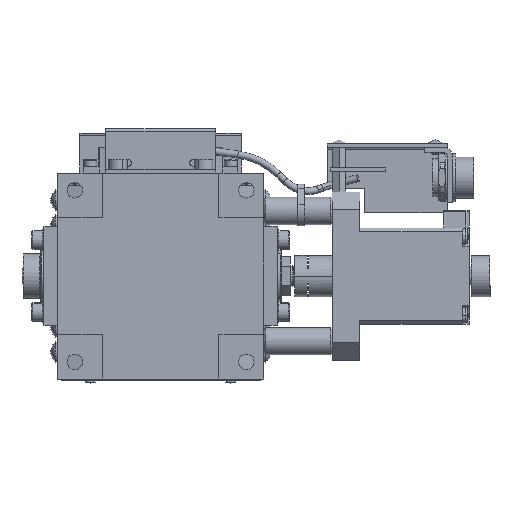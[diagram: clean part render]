
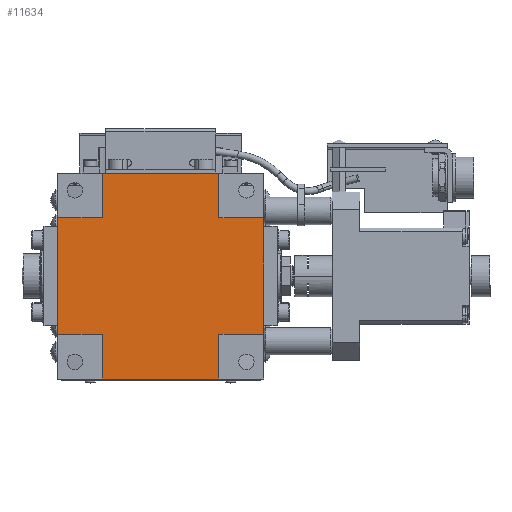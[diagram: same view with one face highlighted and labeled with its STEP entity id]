
A CAD part, front view. The second image highlights one B-rep face of the part: STEP entity #11634.
In plain terms, the highlighted planar face has unit normal (0, -1, 0).
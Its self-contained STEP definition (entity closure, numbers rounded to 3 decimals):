
#91 = LINE ( 'NONE', #7882, #10605 ) ;
#1808 = VECTOR ( 'NONE', #1938, 1000. ) ;
#1938 = DIRECTION ( 'NONE',  ( 1., 0., 0. ) ) ;
#1969 = CARTESIAN_POINT ( 'NONE',  ( 17., 0.3, 30. ) ) ;
#2058 = CARTESIAN_POINT ( 'NONE',  ( 17., 0.3, 17. ) ) ;
#2082 = LINE ( 'NONE', #4412, #8845 ) ;
#2327 = CARTESIAN_POINT ( 'NONE',  ( 30., 0.3, -17. ) ) ;
#2350 = VECTOR ( 'NONE', #5385, 1000. ) ;
#2556 = CARTESIAN_POINT ( 'NONE',  ( 17., 0.3, -17. ) ) ;
#2920 = LINE ( 'NONE', #18964, #19076 ) ;
#3034 = CARTESIAN_POINT ( 'NONE',  ( -17., 0.3, 17. ) ) ;
#3077 = EDGE_CURVE ( 'NONE', #8339, #6684, #24595, .T. ) ;
#3362 = LINE ( 'NONE', #3034, #30868 ) ;
#3479 = VECTOR ( 'NONE', #28386, 1000. ) ;
#3641 = ORIENTED_EDGE ( 'NONE', *, *, #24440, .T. ) ;
#3992 = ORIENTED_EDGE ( 'NONE', *, *, #30521, .T. ) ;
#4169 = VERTEX_POINT ( 'NONE', #1969 ) ;
#4269 = CARTESIAN_POINT ( 'NONE',  ( -30., 0.3, -17. ) ) ;
#4412 = CARTESIAN_POINT ( 'NONE',  ( 17., 0.3, 17. ) ) ;
#4752 = CARTESIAN_POINT ( 'NONE',  ( 17., 0.3, 17. ) ) ;
#5385 = DIRECTION ( 'NONE',  ( 0., 0., -1. ) ) ;
#5442 = DIRECTION ( 'NONE',  ( 0., 0., 1. ) ) ;
#5548 = CARTESIAN_POINT ( 'NONE',  ( 30., 0.3, 17. ) ) ;
#5582 = DIRECTION ( 'NONE',  ( -1., 0., 0. ) ) ;
#6112 = CARTESIAN_POINT ( 'NONE',  ( 17., 0.3, -17. ) ) ;
#6147 = CARTESIAN_POINT ( 'NONE',  ( -17., 0.3, -30. ) ) ;
#6200 = DIRECTION ( 'NONE',  ( -1., 0., 0. ) ) ;
#6670 = DIRECTION ( 'NONE',  ( 0., 0., -1. ) ) ;
#6684 = VERTEX_POINT ( 'NONE', #2327 ) ;
#6839 = DIRECTION ( 'NONE',  ( 0., 0., 1. ) ) ;
#7783 = LINE ( 'NONE', #24690, #31181 ) ;
#7882 = CARTESIAN_POINT ( 'NONE',  ( -17., 0.3, 30. ) ) ;
#8055 = PLANE ( 'NONE',  #24713 ) ;
#8143 = ORIENTED_EDGE ( 'NONE', *, *, #3077, .T. ) ;
#8308 = CARTESIAN_POINT ( 'NONE',  ( -30., 0.3, 17. ) ) ;
#8339 = VERTEX_POINT ( 'NONE', #2556 ) ;
#8845 = VECTOR ( 'NONE', #28548, 1000. ) ;
#9851 = DIRECTION ( 'NONE',  ( 0., 0., -1. ) ) ;
#10605 = VECTOR ( 'NONE', #5582, 1000. ) ;
#10623 = VERTEX_POINT ( 'NONE', #30302 ) ;
#11315 = VECTOR ( 'NONE', #29334, 1000. ) ;
#11634 = ADVANCED_FACE ( 'NONE', ( #13214 ), #8055, .F. ) ;
#11713 = LINE ( 'NONE', #4269, #24883 ) ;
#11773 = CARTESIAN_POINT ( 'NONE',  ( -30., 0.3, -17. ) ) ;
#12630 = CARTESIAN_POINT ( 'NONE',  ( 0., 0.3, 0. ) ) ;
#13214 = FACE_OUTER_BOUND ( 'NONE', #17959, .T. ) ;
#13284 = LINE ( 'NONE', #2058, #3479 ) ;
#13318 = EDGE_CURVE ( 'NONE', #13570, #4169, #13284, .T. ) ;
#13334 = VERTEX_POINT ( 'NONE', #6147 ) ;
#13570 = VERTEX_POINT ( 'NONE', #4752 ) ;
#13736 = DIRECTION ( 'NONE',  ( 1., 0., 0. ) ) ;
#14474 = VERTEX_POINT ( 'NONE', #11773 ) ;
#14782 = LINE ( 'NONE', #19794, #2350 ) ;
#16099 = ORIENTED_EDGE ( 'NONE', *, *, #23788, .T. ) ;
#16255 = EDGE_CURVE ( 'NONE', #13334, #20289, #29283, .T. ) ;
#16399 = ORIENTED_EDGE ( 'NONE', *, *, #20407, .T. ) ;
#17340 = CARTESIAN_POINT ( 'NONE',  ( -17., 0.3, 17. ) ) ;
#17466 = EDGE_CURVE ( 'NONE', #28802, #13570, #2082, .T. ) ;
#17687 = LINE ( 'NONE', #24787, #11315 ) ;
#17959 = EDGE_LOOP ( 'NONE', ( #8143, #29801, #19907, #29427, #3992, #27073, #3641, #16399, #16099, #22503, #29161, #30916 ) ) ;
#18007 = DIRECTION ( 'NONE',  ( 1., 0., 0. ) ) ;
#18135 = CARTESIAN_POINT ( 'NONE',  ( 17., 0.3, -30. ) ) ;
#18563 = VERTEX_POINT ( 'NONE', #17340 ) ;
#18964 = CARTESIAN_POINT ( 'NONE',  ( -30., 0.3, 17. ) ) ;
#19051 = CARTESIAN_POINT ( 'NONE',  ( -17., 0.3, -30. ) ) ;
#19076 = VECTOR ( 'NONE', #6670, 1000. ) ;
#19317 = VECTOR ( 'NONE', #6839, 1000. ) ;
#19794 = CARTESIAN_POINT ( 'NONE',  ( -17., 0.3, -30. ) ) ;
#19907 = ORIENTED_EDGE ( 'NONE', *, *, #17466, .T. ) ;
#20289 = VERTEX_POINT ( 'NONE', #18135 ) ;
#20407 = EDGE_CURVE ( 'NONE', #23266, #14474, #2920, .T. ) ;
#20582 = DIRECTION ( 'NONE',  ( 0., 1., 0. ) ) ;
#21236 = CARTESIAN_POINT ( 'NONE',  ( 30., 0.3, 17. ) ) ;
#22405 = EDGE_CURVE ( 'NONE', #6684, #28802, #29141, .T. ) ;
#22503 = ORIENTED_EDGE ( 'NONE', *, *, #23149, .T. ) ;
#23031 = CARTESIAN_POINT ( 'NONE',  ( -17., 0.3, -17. ) ) ;
#23149 = EDGE_CURVE ( 'NONE', #28225, #13334, #14782, .T. ) ;
#23266 = VERTEX_POINT ( 'NONE', #8308 ) ;
#23788 = EDGE_CURVE ( 'NONE', #14474, #28225, #11713, .T. ) ;
#24440 = EDGE_CURVE ( 'NONE', #18563, #23266, #17687, .T. ) ;
#24595 = LINE ( 'NONE', #6112, #26903 ) ;
#24690 = CARTESIAN_POINT ( 'NONE',  ( 17., 0.3, -30. ) ) ;
#24713 = AXIS2_PLACEMENT_3D ( 'NONE', #12630, #20582, #6200 ) ;
#24787 = CARTESIAN_POINT ( 'NONE',  ( -30., 0.3, 17. ) ) ;
#24883 = VECTOR ( 'NONE', #13736, 1000. ) ;
#25910 = EDGE_CURVE ( 'NONE', #10623, #18563, #3362, .T. ) ;
#26903 = VECTOR ( 'NONE', #18007, 1000. ) ;
#27073 = ORIENTED_EDGE ( 'NONE', *, *, #25910, .T. ) ;
#27720 = EDGE_CURVE ( 'NONE', #20289, #8339, #7783, .T. ) ;
#28225 = VERTEX_POINT ( 'NONE', #23031 ) ;
#28386 = DIRECTION ( 'NONE',  ( 0., 0., 1. ) ) ;
#28548 = DIRECTION ( 'NONE',  ( -1., 0., 0. ) ) ;
#28802 = VERTEX_POINT ( 'NONE', #5548 ) ;
#29141 = LINE ( 'NONE', #21236, #19317 ) ;
#29161 = ORIENTED_EDGE ( 'NONE', *, *, #16255, .T. ) ;
#29283 = LINE ( 'NONE', #19051, #1808 ) ;
#29334 = DIRECTION ( 'NONE',  ( -1., 0., 0. ) ) ;
#29427 = ORIENTED_EDGE ( 'NONE', *, *, #13318, .T. ) ;
#29801 = ORIENTED_EDGE ( 'NONE', *, *, #22405, .T. ) ;
#30302 = CARTESIAN_POINT ( 'NONE',  ( -17., 0.3, 30. ) ) ;
#30521 = EDGE_CURVE ( 'NONE', #4169, #10623, #91, .T. ) ;
#30868 = VECTOR ( 'NONE', #9851, 1000. ) ;
#30916 = ORIENTED_EDGE ( 'NONE', *, *, #27720, .T. ) ;
#31181 = VECTOR ( 'NONE', #5442, 1000. ) ;
